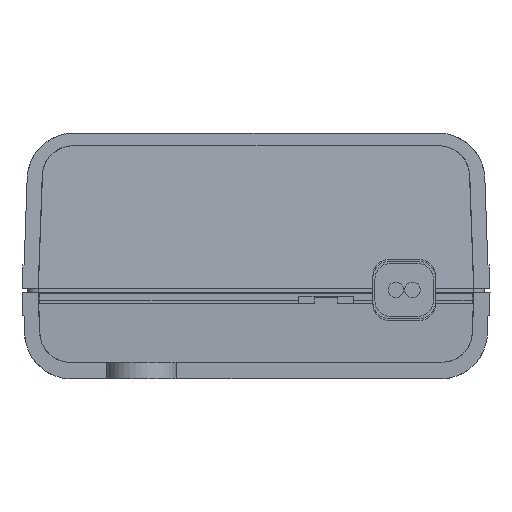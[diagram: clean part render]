
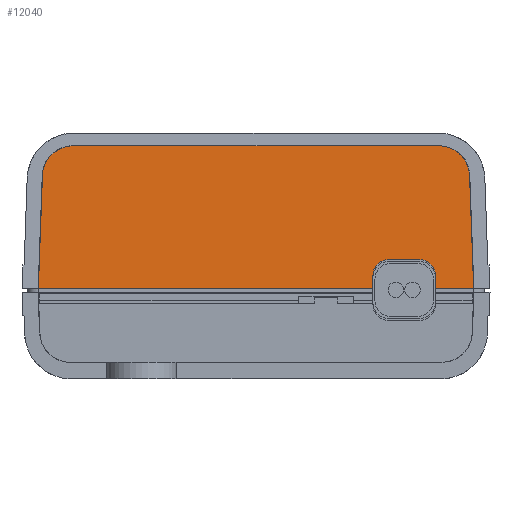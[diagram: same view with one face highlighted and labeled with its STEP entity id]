
A CAD part, left-side view. The second image highlights one B-rep face of the part: STEP entity #12040.
In plain terms, the highlighted planar face has unit normal (-0.999, 0, 0.035).
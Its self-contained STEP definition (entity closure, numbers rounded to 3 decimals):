
#8140=CARTESIAN_POINT('',(-44.137,48.602,
13.65));
#8150=VERTEX_POINT('',#8140);
#8180=CARTESIAN_POINT('',(-44.137,43.45,
13.65));
#8190=DIRECTION('',(0.,1.,0.));
#8200=VECTOR('',#8190,1.);
#8210=LINE('',#8180,#8200);
#8220=CARTESIAN_POINT('',(-44.137,43.45,13.65));
#8230=VERTEX_POINT('',#8220);
#8240=EDGE_CURVE('',#8230,#8150,#8210,.T.);
#10590=CARTESIAN_POINT('',(-44.137,43.45,
13.65));
#10600=DIRECTION('',(0.035,0.036,
0.999));
#10610=VECTOR('',#10600,1.);
#10620=LINE('',#10590,#10610);
#10630=CARTESIAN_POINT('',(-43.63,43.974,
28.159));
#10640=VERTEX_POINT('',#10630);
#10650=EDGE_CURVE('',#8230,#10640,#10620,.T.);
#10810=CARTESIAN_POINT('',(-43.63,43.974,
28.159));
#10820=CARTESIAN_POINT('',(-43.618,43.986,
28.499));
#10830=CARTESIAN_POINT('',(-43.595,44.096,
29.151));
#10840=CARTESIAN_POINT('',(-43.563,44.507,
30.075));
#10850=CARTESIAN_POINT('',(-43.536,45.137,
30.859));
#10860=CARTESIAN_POINT('',(-43.515,45.945,
31.461));
#10870=CARTESIAN_POINT('',(-43.501,46.883,
31.838));
#10880=CARTESIAN_POINT('',(-43.498,47.539,
31.923));
#10890=CARTESIAN_POINT('',(-43.498,47.879,
31.923));
#10900=B_SPLINE_CURVE_WITH_KNOTS('',3,(#10810,#10820,#10830,#10840,
#10850,#10860,#10870,#10880,#10890),.UNSPECIFIED.,.F.,.F.,(4,1,1,1,1,1,4
),(0.,0.167,0.333,0.5,0.667,
0.833,1.),.UNSPECIFIED.);
#10910=CARTESIAN_POINT('',(-43.498,47.879,
31.923));
#10920=VERTEX_POINT('',#10910);
#10930=EDGE_CURVE('',#10640,#10920,#10900,.T.);
#11060=CARTESIAN_POINT('',(-43.818,71.343,22.787)
);
#11070=DIRECTION('',(0.999,0.,-0.035));
#11080=DIRECTION('',(0.035,0.,0.999));
#11090=AXIS2_PLACEMENT_3D('',#11060,#11070,#11080);
#11100=PLANE('',#11090);
#11110=CARTESIAN_POINT('',(-43.498,94.807,
31.923));
#11120=DIRECTION('',(0.,-1.,0.));
#11130=VECTOR('',#11120,1.);
#11140=LINE('',#11110,#11130);
#11150=CARTESIAN_POINT('',(-43.498,94.807,
31.923));
#11160=VERTEX_POINT('',#11150);
#11170=EDGE_CURVE('',#11160,#10920,#11140,.T.);
#11180=ORIENTED_EDGE('',*,*,#11170,.F.);
#11190=ORIENTED_EDGE('',*,*,#10930,.T.);
#11200=ORIENTED_EDGE('',*,*,#10650,.T.);
#11210=ORIENTED_EDGE('',*,*,#8240,.F.);
#11220=CARTESIAN_POINT('',(-44.613,48.602,0.));
#11230=DIRECTION('',(-0.035,0.,
-0.999));
#11240=VECTOR('',#11230,1.);
#11250=LINE('',#11220,#11240);
#11260=CARTESIAN_POINT('',(-44.091,48.602,
14.95));
#11270=VERTEX_POINT('',#11260);
#11280=EDGE_CURVE('',#11270,#8150,#11250,.T.);
#11290=ORIENTED_EDGE('',*,*,#11280,.T.);
#11300=CARTESIAN_POINT('',(-44.056,48.602,15.95));
#11310=DIRECTION('',(-0.035,0.,-0.999));
#11320=VECTOR('',#11310,1.);
#11330=LINE('',#11300,#11320);
#11340=CARTESIAN_POINT('',(-44.056,48.602,15.95)
);
#11350=VERTEX_POINT('',#11340);
#11360=EDGE_CURVE('',#11350,#11270,#11330,.T.);
#11370=ORIENTED_EDGE('',*,*,#11360,.T.);
#11380=CARTESIAN_POINT('',(-44.056,56.102,15.95));
#11390=DIRECTION('',(0.,-1.,0.));
#11400=VECTOR('',#11390,1.);
#11410=LINE('',#11380,#11400);
#11420=CARTESIAN_POINT('',(-44.056,49.602,
15.95));
#11430=VERTEX_POINT('',#11420);
#11440=EDGE_CURVE('',#11430,#11350,#11410,.T.);
#11450=ORIENTED_EDGE('',*,*,#11440,.T.);
#11460=CARTESIAN_POINT('',(-44.056,0.,15.95));
#11470=DIRECTION('',(0.,-1.,0.));
#11480=VECTOR('',#11470,1.);
#11490=LINE('',#11460,#11480);
#11500=CARTESIAN_POINT('',(-44.056,55.102,
15.95));
#11510=VERTEX_POINT('',#11500);
#11520=EDGE_CURVE('',#11510,#11430,#11490,.T.);
#11530=ORIENTED_EDGE('',*,*,#11520,.T.);
#11540=CARTESIAN_POINT('',(-44.056,56.102,15.95)
);
#11550=VERTEX_POINT('',#11540);
#11560=EDGE_CURVE('',#11550,#11510,#11410,.T.);
#11570=ORIENTED_EDGE('',*,*,#11560,.T.);
#11580=CARTESIAN_POINT('',(-44.137,56.102,13.65)
);
#11590=DIRECTION('',(0.035,0.,0.999));
#11600=VECTOR('',#11590,1.);
#11610=LINE('',#11580,#11600);
#11620=CARTESIAN_POINT('',(-44.091,56.102,
14.95));
#11630=VERTEX_POINT('',#11620);
#11640=EDGE_CURVE('',#11630,#11550,#11610,.T.);
#11650=ORIENTED_EDGE('',*,*,#11640,.T.);
#11660=CARTESIAN_POINT('',(-44.613,56.102,0.));
#11670=DIRECTION('',(0.035,0.,
0.999));
#11680=VECTOR('',#11670,1.);
#11690=LINE('',#11660,#11680);
#11700=CARTESIAN_POINT('',(-44.137,56.102,13.65));
#11710=VERTEX_POINT('',#11700);
#11720=EDGE_CURVE('',#11710,#11630,#11690,.T.);
#11730=ORIENTED_EDGE('',*,*,#11720,.T.);
#11740=CARTESIAN_POINT('',(-44.137,99.236,13.65));
#11750=DIRECTION('',(0.,-1.,0.));
#11760=VECTOR('',#11750,1.);
#11770=LINE('',#11740,#11760);
#11780=CARTESIAN_POINT('',(-44.137,99.236,
13.65));
#11790=VERTEX_POINT('',#11780);
#11800=EDGE_CURVE('',#11790,#11710,#11770,.T.);
#11810=ORIENTED_EDGE('',*,*,#11800,.T.);
#11820=CARTESIAN_POINT('',(-44.137,99.236,
13.65));
#11830=DIRECTION('',(0.035,-0.036,
0.999));
#11840=VECTOR('',#11830,1.);
#11850=LINE('',#11820,#11840);
#11860=CARTESIAN_POINT('',(-43.63,98.712,
28.159));
#11870=VERTEX_POINT('',#11860);
#11880=EDGE_CURVE('',#11790,#11870,#11850,.T.);
#11890=ORIENTED_EDGE('',*,*,#11880,.F.);
#11900=CARTESIAN_POINT('',(-43.498,94.807,
31.923));
#11910=CARTESIAN_POINT('',(-43.498,95.147,
31.923));
#11920=CARTESIAN_POINT('',(-43.501,95.803,
31.838));
#11930=CARTESIAN_POINT('',(-43.515,96.741,
31.461));
#11940=CARTESIAN_POINT('',(-43.536,97.549,
30.859));
#11950=CARTESIAN_POINT('',(-43.563,98.18,
30.075));
#11960=CARTESIAN_POINT('',(-43.595,98.59,
29.151));
#11970=CARTESIAN_POINT('',(-43.618,98.7,
28.499));
#11980=CARTESIAN_POINT('',(-43.63,98.712,
28.159));
#11990=B_SPLINE_CURVE_WITH_KNOTS('',3,(#11900,#11910,#11920,#11930,
#11940,#11950,#11960,#11970,#11980),.UNSPECIFIED.,.F.,.F.,(4,1,1,1,1,1,4
),(0.,0.167,0.333,0.5,0.667,
0.833,1.),.UNSPECIFIED.);
#12000=EDGE_CURVE('',#11160,#11870,#11990,.T.);
#12010=ORIENTED_EDGE('',*,*,#12000,.T.);
#12020=EDGE_LOOP('',(#12010,#11890,#11810,#11730,#11650,#11570,#11530,
#11450,#11370,#11290,#11210,#11200,#11190,#11180));
#12030=FACE_OUTER_BOUND('',#12020,.T.);
#12040=ADVANCED_FACE('',(#12030),#11100,.F.);
